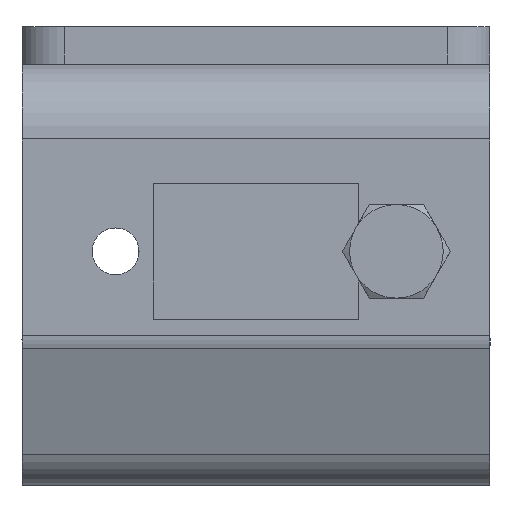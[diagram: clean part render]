
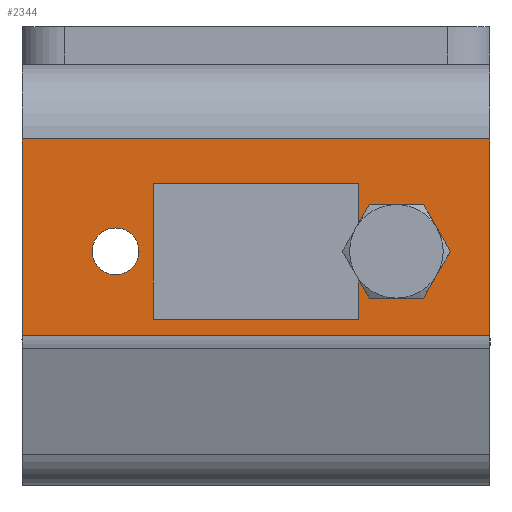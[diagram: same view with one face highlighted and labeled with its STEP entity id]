
A CAD part, left-side view. The second image highlights one B-rep face of the part: STEP entity #2344.
In plain terms, the highlighted planar face has unit normal (-1, 0, 0).
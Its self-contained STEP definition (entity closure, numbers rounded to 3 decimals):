
#90=FACE_BOUND('',#862,.T.);
#91=FACE_BOUND('',#863,.T.);
#92=FACE_BOUND('',#864,.T.);
#157=LINE('',#4136,#313);
#190=LINE('',#4233,#346);
#193=LINE('',#4238,#349);
#195=LINE('',#4242,#351);
#196=LINE('',#4244,#352);
#197=LINE('',#4252,#353);
#200=LINE('',#4259,#356);
#204=LINE('',#4272,#360);
#313=VECTOR('',#2984,50.);
#346=VECTOR('',#3085,14.5);
#349=VECTOR('',#3090,22.);
#351=VECTOR('',#3094,14.5);
#352=VECTOR('',#3097,22.);
#353=VECTOR('',#3106,21.002);
#356=VECTOR('',#3113,50.);
#360=VECTOR('',#3133,21.002);
#511=PLANE('',#2582);
#670=FACE_OUTER_BOUND('',#861,.T.);
#861=EDGE_LOOP('',(#2019,#2020,#2021,#2022));
#862=EDGE_LOOP('',(#2023));
#863=EDGE_LOOP('',(#2024,#2025,#2026,#2027));
#864=EDGE_LOOP('',(#2028));
#1051=CIRCLE('',#2562,2.5);
#1053=CIRCLE('',#2570,2.459);
#1189=VERTEX_POINT('',#4121);
#1192=VERTEX_POINT('',#4129);
#1216=VERTEX_POINT('',#4218);
#1221=VERTEX_POINT('',#4230);
#1222=VERTEX_POINT('',#4232);
#1223=VERTEX_POINT('',#4236);
#1224=VERTEX_POINT('',#4240);
#1226=VERTEX_POINT('',#4248);
#1227=VERTEX_POINT('',#4251);
#1229=VERTEX_POINT('',#4258);
#1440=EDGE_CURVE('',#1192,#1189,#157,.T.);
#1479=EDGE_CURVE('',#1216,#1216,#1051,.T.);
#1485=EDGE_CURVE('',#1222,#1221,#190,.T.);
#1488=EDGE_CURVE('',#1221,#1223,#193,.T.);
#1490=EDGE_CURVE('',#1223,#1224,#195,.T.);
#1491=EDGE_CURVE('',#1224,#1222,#196,.T.);
#1493=EDGE_CURVE('',#1226,#1226,#1053,.T.);
#1494=EDGE_CURVE('',#1227,#1192,#197,.T.);
#1498=EDGE_CURVE('',#1229,#1227,#200,.T.);
#1505=EDGE_CURVE('',#1189,#1229,#204,.T.);
#2019=ORIENTED_EDGE('',*,*,#1440,.T.);
#2020=ORIENTED_EDGE('',*,*,#1505,.T.);
#2021=ORIENTED_EDGE('',*,*,#1498,.T.);
#2022=ORIENTED_EDGE('',*,*,#1494,.T.);
#2023=ORIENTED_EDGE('',*,*,#1493,.T.);
#2024=ORIENTED_EDGE('',*,*,#1491,.T.);
#2025=ORIENTED_EDGE('',*,*,#1485,.T.);
#2026=ORIENTED_EDGE('',*,*,#1488,.T.);
#2027=ORIENTED_EDGE('',*,*,#1490,.T.);
#2028=ORIENTED_EDGE('',*,*,#1479,.T.);
#2344=ADVANCED_FACE('',(#670,#90,#91,#92),#511,.T.);
#2562=AXIS2_PLACEMENT_3D('',#4219,#3074,#3075);
#2570=AXIS2_PLACEMENT_3D('',#4249,#3102,#3103);
#2582=AXIS2_PLACEMENT_3D('',#4273,#3134,#3135);
#2984=DIRECTION('',(0.,1.,0.));
#3074=DIRECTION('center_axis',(1.,0.,0.));
#3075=DIRECTION('ref_axis',(0.,0.,
-1.));
#3085=DIRECTION('',(0.,0.,1.));
#3090=DIRECTION('',(0.,-1.,0.));
#3094=DIRECTION('',(0.,0.,-1.));
#3097=DIRECTION('',(0.,1.,0.));
#3102=DIRECTION('center_axis',(1.,0.,0.));
#3103=DIRECTION('ref_axis',(0.,0.,
1.));
#3106=DIRECTION('',(0.,0.,1.));
#3113=DIRECTION('',(0.,-1.,0.));
#3133=DIRECTION('',(0.,0.,-1.));
#3134=DIRECTION('center_axis',(-1.,0.,0.));
#3135=DIRECTION('ref_axis',(0.,0.,1.));
#4121=CARTESIAN_POINT('',(-25.,25.,-8.));
#4129=CARTESIAN_POINT('',(-25.,-25.,-8.));
#4136=CARTESIAN_POINT('',(-25.,12.5,-8.));
#4218=CARTESIAN_POINT('',(-25.,15.,-17.502));
#4219=CARTESIAN_POINT('Origin',(-25.,15.,-20.002));
#4230=CARTESIAN_POINT('',(-25.,11.,-12.752));
#4232=CARTESIAN_POINT('',(-25.,11.,-27.252));
#4233=CARTESIAN_POINT('',(-25.,11.,35.041));
#4236=CARTESIAN_POINT('',(-25.,-11.,-12.752));
#4238=CARTESIAN_POINT('',(-25.,-5.5,-12.752));
#4240=CARTESIAN_POINT('',(-25.,-11.,-27.252));
#4242=CARTESIAN_POINT('',(-25.,-11.,27.791));
#4244=CARTESIAN_POINT('',(-25.,5.5,-27.252));
#4248=CARTESIAN_POINT('',(-25.,-15.,-17.544));
#4249=CARTESIAN_POINT('Origin',(-25.,-15.,-20.002));
#4251=CARTESIAN_POINT('',(-25.,-25.,-29.002));
#4252=CARTESIAN_POINT('',(-25.,-25.,-49.682));
#4258=CARTESIAN_POINT('',(-25.,25.,-29.002));
#4259=CARTESIAN_POINT('',(-25.,-12.5,-29.002));
#4272=CARTESIAN_POINT('',(-25.,25.,85.677));
#4273=CARTESIAN_POINT('Origin',(-25.,0.,82.834));
